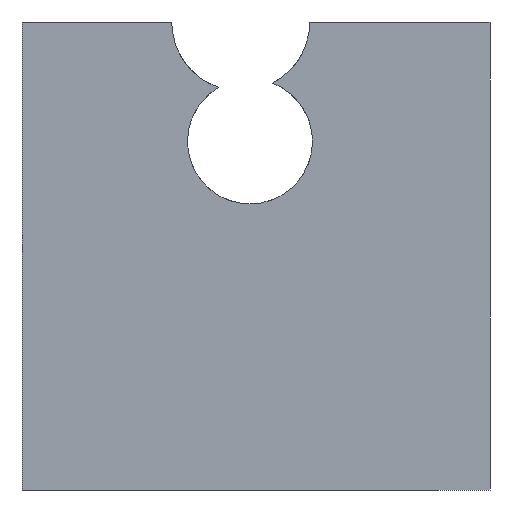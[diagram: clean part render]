
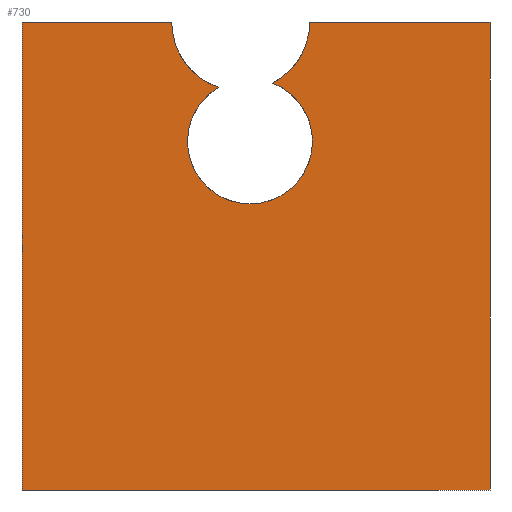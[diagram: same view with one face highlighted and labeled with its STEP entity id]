
A CAD part, left-side view. The second image highlights one B-rep face of the part: STEP entity #730.
In plain terms, the highlighted planar face has unit normal (-1, 0, 0).
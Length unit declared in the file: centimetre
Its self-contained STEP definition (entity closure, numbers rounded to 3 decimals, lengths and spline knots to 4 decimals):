
#5 = DIRECTION ( 'NONE',  ( -1., 0., 0. ) ) ;
#23 = DIRECTION ( 'NONE',  ( 0., 0., -1. ) ) ;
#37 = ORIENTED_EDGE ( 'NONE', *, *, #896, .F. ) ;
#65 = EDGE_CURVE ( 'NONE', #237, #1025, #388, .T. ) ;
#73 = FACE_OUTER_BOUND ( 'NONE', #1030, .T. ) ;
#102 = CARTESIAN_POINT ( 'NONE',  ( 0., 0., 1000. ) ) ;
#117 = CIRCLE ( 'NONE', #748, 133.551 ) ;
#145 = DIRECTION ( 'NONE',  ( 0., -1., 0. ) ) ;
#153 = DIRECTION ( 'NONE',  ( 0., 0., -1. ) ) ;
#154 = VERTEX_POINT ( 'NONE', #546 ) ;
#169 = PLANE ( 'NONE',  #348 ) ;
#187 = CARTESIAN_POINT ( 'NONE',  ( 0., 1000., 0. ) ) ;
#202 = DIRECTION ( 'NONE',  ( 1., 0., 0. ) ) ;
#230 = CIRCLE ( 'NONE', #332, 147.4873 ) ;
#237 = VERTEX_POINT ( 'NONE', #947 ) ;
#247 = DIRECTION ( 'NONE',  ( 0., -1., 0. ) ) ;
#289 = AXIS2_PLACEMENT_3D ( 'NONE', #328, #705, #153 ) ;
#328 = CARTESIAN_POINT ( 'NONE',  ( 0., 512.8098, 744.7803 ) ) ;
#332 = AXIS2_PLACEMENT_3D ( 'NONE', #1055, #1048, #579 ) ;
#335 = CARTESIAN_POINT ( 'NONE',  ( 0., 1000., 0. ) ) ;
#348 = AXIS2_PLACEMENT_3D ( 'NONE', #1126, #556, #549 ) ;
#359 = CARTESIAN_POINT ( 'NONE',  ( 0., 1000., 1000. ) ) ;
#384 = CARTESIAN_POINT ( 'NONE',  ( 0., 512.8098, 744.7803 ) ) ;
#388 = LINE ( 'NONE', #102, #561 ) ;
#447 = VECTOR ( 'NONE', #1086, 100. ) ;
#464 = ORIENTED_EDGE ( 'NONE', *, *, #834, .F. ) ;
#488 = ORIENTED_EDGE ( 'NONE', *, *, #65, .F. ) ;
#543 = ORIENTED_EDGE ( 'NONE', *, *, #597, .T. ) ;
#546 = CARTESIAN_POINT ( 'NONE',  ( 0., 680.1052, 1000. ) ) ;
#549 = DIRECTION ( 'NONE',  ( 0., 0., -1. ) ) ;
#554 = EDGE_CURVE ( 'NONE', #783, #1014, #620, .T. ) ;
#556 = DIRECTION ( 'NONE',  ( 1., 0., 0. ) ) ;
#561 = VECTOR ( 'NONE', #23, 100. ) ;
#579 = DIRECTION ( 'NONE',  ( 0., 0., 1. ) ) ;
#597 = EDGE_CURVE ( 'NONE', #815, #1025, #711, .T. ) ;
#605 = EDGE_CURVE ( 'NONE', #681, #154, #810, .T. ) ;
#607 = ORIENTED_EDGE ( 'NONE', *, *, #1091, .F. ) ;
#609 = CARTESIAN_POINT ( 'NONE',  ( 0., 1000., 1000. ) ) ;
#618 = CARTESIAN_POINT ( 'NONE',  ( 0., 1000., 1000. ) ) ;
#620 = CIRCLE ( 'NONE', #289, 133.551 ) ;
#652 = CARTESIAN_POINT ( 'NONE',  ( 0., 0., 0. ) ) ;
#680 = VECTOR ( 'NONE', #247, 100. ) ;
#681 = VERTEX_POINT ( 'NONE', #609 ) ;
#701 = CARTESIAN_POINT ( 'NONE',  ( 0., 579.8559, 860.2822 ) ) ;
#705 = DIRECTION ( 'NONE',  ( 1., 0., 0. ) ) ;
#711 = LINE ( 'NONE', #335, #447 ) ;
#724 = LINE ( 'NONE', #359, #680 ) ;
#730 = ADVANCED_FACE ( 'NONE', ( #73 ), #169, .F. ) ;
#748 = AXIS2_PLACEMENT_3D ( 'NONE', #384, #202, #773 ) ;
#773 = DIRECTION ( 'NONE',  ( 0., 0., -1. ) ) ;
#783 = VERTEX_POINT ( 'NONE', #844 ) ;
#788 = DIRECTION ( 'NONE',  ( 0., 0., 1. ) ) ;
#796 = AXIS2_PLACEMENT_3D ( 'NONE', #859, #5, #788 ) ;
#810 = LINE ( 'NONE', #618, #1083 ) ;
#815 = VERTEX_POINT ( 'NONE', #187 ) ;
#823 = CARTESIAN_POINT ( 'NONE',  ( 0., 385.1306, 1000. ) ) ;
#834 = EDGE_CURVE ( 'NONE', #783, #978, #230, .T. ) ;
#844 = CARTESIAN_POINT ( 'NONE',  ( 0., 464.3879, 869.2439 ) ) ;
#859 = CARTESIAN_POINT ( 'NONE',  ( 0., 532.6179, 1000. ) ) ;
#870 = ORIENTED_EDGE ( 'NONE', *, *, #880, .T. ) ;
#880 = EDGE_CURVE ( 'NONE', #1014, #940, #117, .T. ) ;
#896 = EDGE_CURVE ( 'NONE', #154, #940, #1070, .T. ) ;
#897 = LINE ( 'NONE', #981, #1103 ) ;
#927 = CARTESIAN_POINT ( 'NONE',  ( 0., 512.8098, 611.2293 ) ) ;
#936 = EDGE_CURVE ( 'NONE', #681, #815, #897, .T. ) ;
#940 = VERTEX_POINT ( 'NONE', #701 ) ;
#947 = CARTESIAN_POINT ( 'NONE',  ( 0., 0., 1000. ) ) ;
#978 = VERTEX_POINT ( 'NONE', #823 ) ;
#981 = CARTESIAN_POINT ( 'NONE',  ( 0., 1000., 1000. ) ) ;
#1014 = VERTEX_POINT ( 'NONE', #927 ) ;
#1025 = VERTEX_POINT ( 'NONE', #652 ) ;
#1030 = EDGE_LOOP ( 'NONE', ( #1113, #870, #37, #1149, #1084, #543, #488, #607, #464 ) ) ;
#1048 = DIRECTION ( 'NONE',  ( -1., 0., 0. ) ) ;
#1055 = CARTESIAN_POINT ( 'NONE',  ( 0., 532.6179, 1000. ) ) ;
#1069 = DIRECTION ( 'NONE',  ( 0., 0., -1. ) ) ;
#1070 = CIRCLE ( 'NONE', #796, 147.4873 ) ;
#1083 = VECTOR ( 'NONE', #145, 100. ) ;
#1084 = ORIENTED_EDGE ( 'NONE', *, *, #936, .T. ) ;
#1086 = DIRECTION ( 'NONE',  ( 0., -1., 0. ) ) ;
#1091 = EDGE_CURVE ( 'NONE', #978, #237, #724, .T. ) ;
#1103 = VECTOR ( 'NONE', #1069, 100. ) ;
#1113 = ORIENTED_EDGE ( 'NONE', *, *, #554, .T. ) ;
#1126 = CARTESIAN_POINT ( 'NONE',  ( 0., 1000., 1000. ) ) ;
#1149 = ORIENTED_EDGE ( 'NONE', *, *, #605, .F. ) ;
